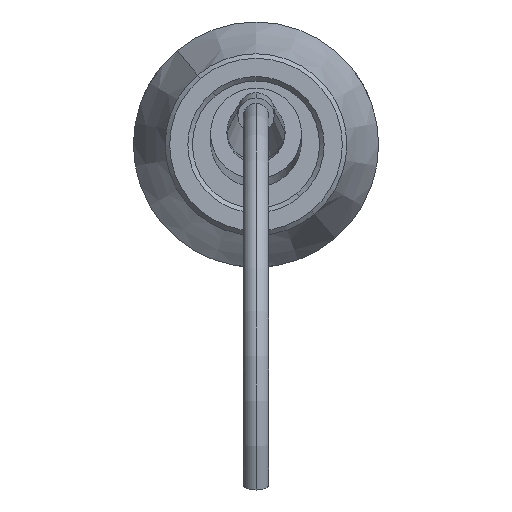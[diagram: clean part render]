
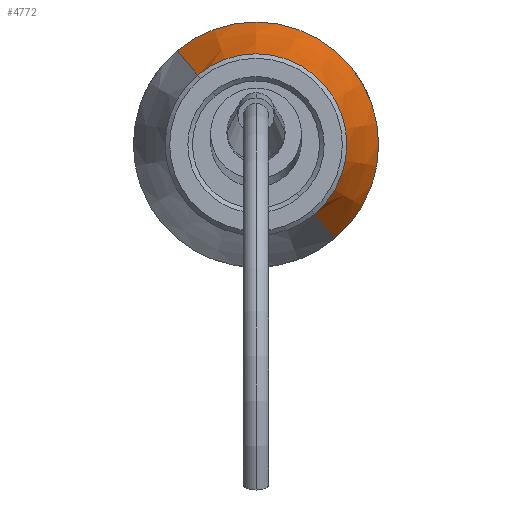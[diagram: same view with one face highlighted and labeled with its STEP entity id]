
A CAD part, left-side view. The second image highlights one B-rep face of the part: STEP entity #4772.
In plain terms, the highlighted conical face has half-angle 20 degrees and reference radius 10 mm.
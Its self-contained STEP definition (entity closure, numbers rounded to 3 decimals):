
#93 = VERTEX_POINT ( 'NONE', #4859 ) ;
#113 = VERTEX_POINT ( 'NONE', #4848 ) ;
#154 = EDGE_LOOP ( 'NONE', ( #310, #309, #659, #658, #657 ) ) ;
#191 = VERTEX_POINT ( 'NONE', #4819 ) ;
#275 = VERTEX_POINT ( 'NONE', #2352 ) ;
#309 = ORIENTED_EDGE ( 'NONE', *, *, #5547, .T. ) ;
#310 = ORIENTED_EDGE ( 'NONE', *, *, #5545, .T. ) ;
#657 = ORIENTED_EDGE ( 'NONE', *, *, #5550, .F. ) ;
#658 = ORIENTED_EDGE ( 'NONE', *, *, #5549, .F. ) ;
#659 = ORIENTED_EDGE ( 'NONE', *, *, #5548, .F. ) ;
#661 = VERTEX_POINT ( 'NONE', #2584 ) ;
#2352 = CARTESIAN_POINT ( 'NONE',  ( -138.995, -8.678, -10.342 ) ) ;
#2584 = CARTESIAN_POINT ( 'NONE',  ( -148.611, -6.428, -7.66 ) ) ;
#2958 = FACE_OUTER_BOUND ( 'NONE', #154, .T. ) ;
#2966 = CONICAL_SURFACE ( 'NONE', #5289, 10., 0.349 ) ;
#3106 = DIRECTION ( 'NONE',  ( 1., 0., 0. ) ) ;
#3117 = CARTESIAN_POINT ( 'NONE',  ( -148.611, 0., 0. ) ) ;
#3125 = DIRECTION ( 'NONE',  ( 0., 0.643, 0.766 ) ) ;
#3427 = AXIS2_PLACEMENT_3D ( 'NONE', #4450, #4451, #4452 ) ;
#3428 = AXIS2_PLACEMENT_3D ( 'NONE', #4456, #4457, #4458 ) ;
#3429 = AXIS2_PLACEMENT_3D ( 'NONE', #4460, #4461, #4462 ) ;
#3905 = CIRCLE ( 'NONE', #3427, 10. ) ;
#3907 = LINE ( 'NONE', #4459, #3915 ) ;
#3908 = LINE ( 'NONE', #4453, #3911 ) ;
#3910 = CIRCLE ( 'NONE', #3428, 13.5 ) ;
#3911 = VECTOR ( 'NONE', #4454, 1000. ) ;
#3912 = CIRCLE ( 'NONE', #3429, 13.5 ) ;
#3915 = VECTOR ( 'NONE', #4455, 1000. ) ;
#4450 = CARTESIAN_POINT ( 'NONE',  ( -148.611, 0., 0. ) ) ;
#4451 = DIRECTION ( 'NONE',  ( 1., 0., 0. ) ) ;
#4452 = DIRECTION ( 'NONE',  ( 0., 0.643, 0.766 ) ) ;
#4453 = CARTESIAN_POINT ( 'NONE',  ( -148.611, -6.428, -7.66 ) ) ;
#4454 = DIRECTION ( 'NONE',  ( 0.94, -0.22, -0.262 ) ) ;
#4455 = DIRECTION ( 'NONE',  ( 0.94, 0.22, 0.262 ) ) ;
#4456 = CARTESIAN_POINT ( 'NONE',  ( -138.995, 0., 0. ) ) ;
#4457 = DIRECTION ( 'NONE',  ( 1., 0., 0. ) ) ;
#4458 = DIRECTION ( 'NONE',  ( 0., 0.643, 0.766 ) ) ;
#4459 = CARTESIAN_POINT ( 'NONE',  ( -148.611, 6.428, 7.66 ) ) ;
#4460 = CARTESIAN_POINT ( 'NONE',  ( -138.995, 0., 0. ) ) ;
#4461 = DIRECTION ( 'NONE',  ( 1., 0., 0. ) ) ;
#4462 = DIRECTION ( 'NONE',  ( 0., 0.643, 0.766 ) ) ;
#4772 = ADVANCED_FACE ( 'NONE', ( #2958 ), #2966, .T. ) ;
#4819 = CARTESIAN_POINT ( 'NONE',  ( -138.995, 0., 13.5 ) ) ;
#4848 = CARTESIAN_POINT ( 'NONE',  ( -148.611, 6.428, 7.66 ) ) ;
#4859 = CARTESIAN_POINT ( 'NONE',  ( -138.995, 8.678, 10.342 ) ) ;
#5289 = AXIS2_PLACEMENT_3D ( 'NONE', #3117, #3106, #3125 ) ;
#5545 = EDGE_CURVE ( 'NONE', #113, #661, #3905, .T. ) ;
#5547 = EDGE_CURVE ( 'NONE', #661, #275, #3908, .T. ) ;
#5548 = EDGE_CURVE ( 'NONE', #191, #275, #3910, .T. ) ;
#5549 = EDGE_CURVE ( 'NONE', #93, #191, #3912, .T. ) ;
#5550 = EDGE_CURVE ( 'NONE', #113, #93, #3907, .T. ) ;
